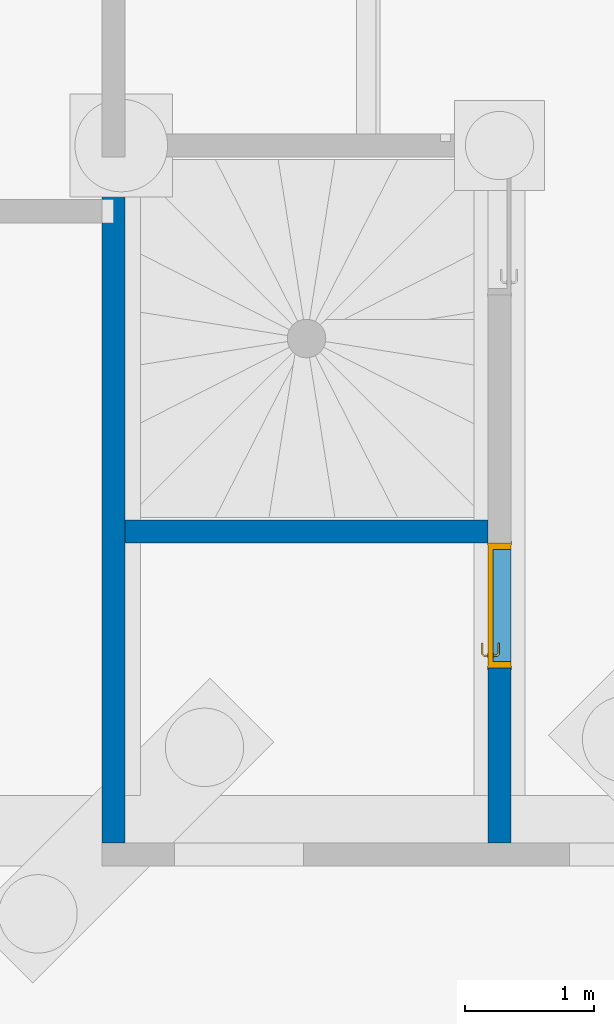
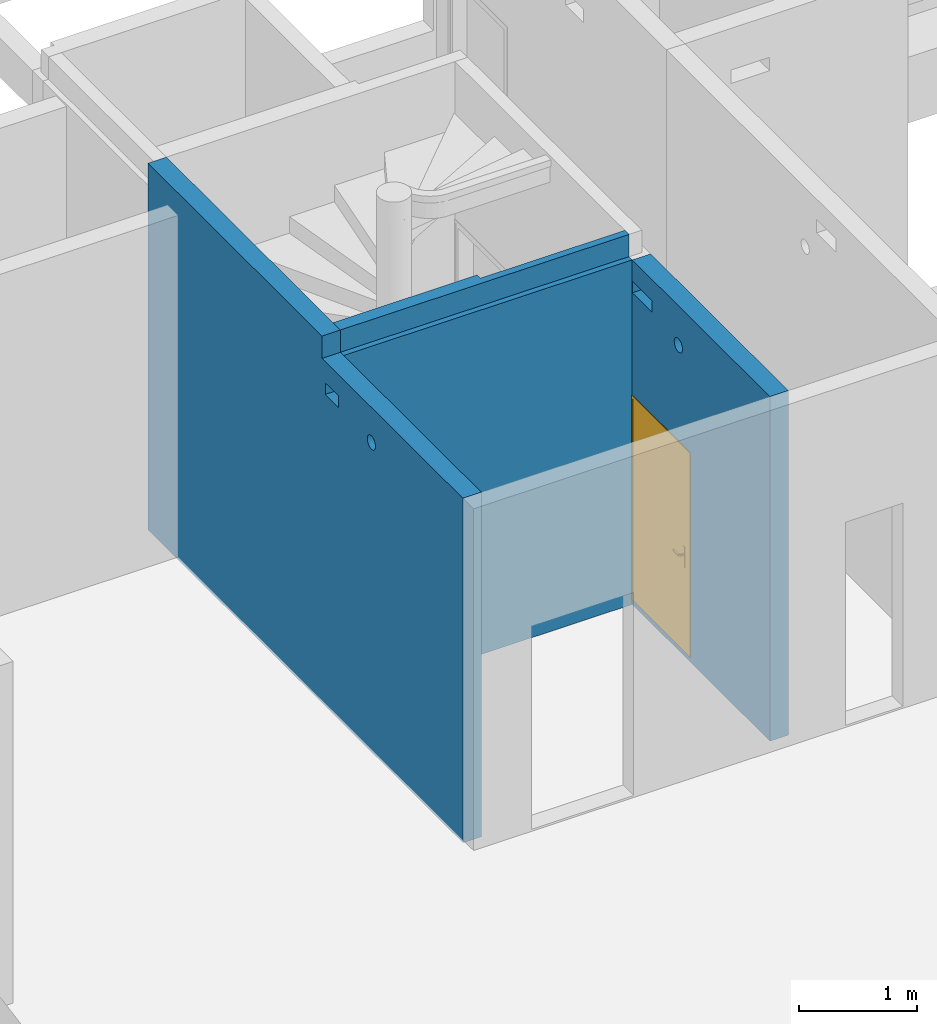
# One storey, part 14 of 29: 3 walls, 1 door, 1 opening.
"""IFC2X3 building model written with IfcOpenShell, lengths in centimetres."""

from ifc_helpers import new_model, entity, si_unit, converted_unit, derived_unit, direction, frame, frame_2d, origin, place, context, subcontext, project, spatial, rectangle, extrude, faceted_brep, source, transform, mapped, material, material_list, layer, layer_set, type_object, type_shapes, element, fill, save


model = new_model("IFC2X3")

# Units and contexts
model_context = context("Model", 3, precision=0.001, world=origin(), true_north=direction((6.12303176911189e-17, 1.0)))
body_context = subcontext(model_context, "Body", "Model", "MODEL_VIEW")
ifc_project = project(units=[si_unit("LENGTHUNIT", "METRE", prefix="CENTI"), si_unit("AREAUNIT", "SQUARE_METRE"), si_unit("VOLUMEUNIT", "CUBIC_METRE"), converted_unit("PLANEANGLEUNIT", "DEGREE", entity("IfcRatioMeasure", 0.0174532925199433), si_unit("PLANEANGLEUNIT", "RADIAN"), dimensions=[0, 0, 0, 0, 0, 0, 0]), si_unit("MASSUNIT", "GRAM", prefix="KILO"), derived_unit("MASSDENSITYUNIT", [(si_unit("MASSUNIT", "GRAM", prefix="KILO"), 1), (si_unit("LENGTHUNIT", "METRE"), -3)]), si_unit("TIMEUNIT", "SECOND"), si_unit("FREQUENCYUNIT", "HERTZ"), si_unit("THERMODYNAMICTEMPERATUREUNIT", "DEGREE_CELSIUS"), derived_unit("THERMALTRANSMITTANCEUNIT", [(si_unit("MASSUNIT", "GRAM", prefix="KILO"), 1), (si_unit("THERMODYNAMICTEMPERATUREUNIT", "KELVIN"), -1), (si_unit("TIMEUNIT", "SECOND"), -3)]), derived_unit("VOLUMETRICFLOWRATEUNIT", [(si_unit("LENGTHUNIT", "METRE"), 3), (si_unit("TIMEUNIT", "SECOND"), -1)]), si_unit("ELECTRICCURRENTUNIT", "AMPERE"), si_unit("ELECTRICVOLTAGEUNIT", "VOLT"), si_unit("POWERUNIT", "WATT"), si_unit("FORCEUNIT", "NEWTON"), si_unit("ILLUMINANCEUNIT", "LUX"), si_unit("LUMINOUSFLUXUNIT", "LUMEN"), si_unit("LUMINOUSINTENSITYUNIT", "CANDELA"), derived_unit("USERDEFINED", [(si_unit("MASSUNIT", "GRAM", prefix="KILO"), -1), (si_unit("LENGTHUNIT", "METRE"), -2), (si_unit("TIMEUNIT", "SECOND"), 3), (si_unit("LUMINOUSFLUXUNIT", "LUMEN"), 1)]), derived_unit("LINEARVELOCITYUNIT", [(si_unit("LENGTHUNIT", "METRE"), 1), (si_unit("TIMEUNIT", "SECOND"), -1)]), si_unit("PRESSUREUNIT", "PASCAL"), derived_unit("USERDEFINED", [(si_unit("LENGTHUNIT", "METRE"), -2), (si_unit("MASSUNIT", "GRAM", prefix="KILO"), 1), (si_unit("TIMEUNIT", "SECOND"), -2)])], contexts=[model_context])

# Site, building, storey
site_placement = place(None, origin())
site = spatial("IfcSite", under=ifc_project, at=site_placement, Name="Default", CompositionType="ELEMENT")
building_placement = place(site_placement, origin())
building = spatial("IfcBuilding", under=site, at=building_placement, Name="CAGE 03", CompositionType="ELEMENT")
storey_placement = place(building_placement, frame((0.0, 0.0, -34.0)))
storey = spatial("IfcBuildingStorey", under=building, at=storey_placement, Name="+3.66", CompositionType="ELEMENT", Elevation=-34.0000000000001)

# Wall
ifc_material_1 = material(Name="Béton, C25/30")
ifc_layer = layer(ifc_material_1, 18.0)
ifc_layer_set = layer_set([ifc_layer], Name="Mur de base:Voile BA 18")
wall_type = type_object("IfcWallType", Name="Mur de base:Voile BA 18", PredefinedType="STANDARD", material=ifc_layer_set)
wall_1_placement = place(storey_placement, frame((3672.36582014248, 4641.66066607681, -5.0)))
element("IfcWall", 1, at=wall_1_placement, inside=storey, type_object=wall_type, Name="Mur de base:Voile BA 18", ObjectType="Mur de base:Voile BA 18", context=body_context, shape_type="Brep", body=[
    faceted_brep([(0.0, -9.0, 0.0), (282.0, -9.0, 0.0), (282.0, -9.0, 356.0), (0.0, -9.0, 356.0), (0.0, -9.0, 334.076580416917), (0.0, -9.0, 322.076580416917), (282.0, 9.0, 0.0), (0.0, 9.0, 0.0), (0.0, 9.0, 379.0), (141.0, 9.0, 379.0), (141.0, 9.0, 359.0), (282.0, 9.0, 359.0), (0.0, -3.50000000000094, 379.0), (282.0, -3.50000000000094, 379.0), (282.0, 3.50000000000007, 379.0), (141.0, 3.50000000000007, 379.0), (282.0, 3.50000000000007, 359.0), (282.0, -3.50000000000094, 356.0), (0.0, -3.50000000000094, 356.0), (141.0, 3.50000000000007, 359.0)], [[[0, 1, 2, 3, 4, 5]], [[6, 7, 8, 9, 10, 11]], [[1, 0, 7, 6]], [[12, 13, 14, 15, 9, 8]], [[1, 6, 11, 16, 14, 13, 17, 2]], [[8, 7, 0, 5, 4, 3, 18, 12]], [[3, 2, 17, 18]], [[13, 12, 18, 17]], [[19, 16, 11, 10]], [[15, 19, 10, 9]], [[19, 15, 14, 16]]]),
])

# Wall, opening, door
wall_2_placement = place(storey_placement, frame((3963.36582014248, 4632.66066607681, -5.0), z_axis=(0.0, 0.0, 1.0), x_axis=(0.0, -1.0, 0.0)))
wall_2 = element("IfcWall", 2, at=wall_2_placement, inside=storey, type_object=wall_type, Name="Mur de base:Voile BA 18", ObjectType="Mur de base:Voile BA 18", context=body_context, shape_type="Brep", body=[
    faceted_brep([(0.0, 9.0, 215.0), (0.0, -9.0, 215.0), (0.0, -9.0, 356.0), (0.0, 9.0, 356.0), (0.0, 9.0, 0.0), (0.0, -9.0, 0.0), (0.0, -9.0, 5.0), (0.0, 9.0, 5.0), (97.0, -9.0, 215.0), (74.5698580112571, -9.0, 309.16345256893), (76.2581246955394, -9.0, 308.464149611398), (78.0698580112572, -9.0, 308.225630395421), (79.8815913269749, -9.0, 308.464149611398), (81.5698580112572, -9.0, 309.16345256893), (83.019605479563, -9.0, 310.275882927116), (84.1320358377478, -9.0, 311.725630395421), (84.8313387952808, -9.0, 313.413897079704), (233.0, -9.0, 356.0), (233.0, -9.0, 0.0), (97.0, -9.0, 5.0), (85.0698580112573, -9.0, 315.225630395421), (84.8313387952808, -9.0, 317.037363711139), (84.1320358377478, -9.0, 318.725630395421), (83.019605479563, -9.0, 320.175377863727), (81.5698580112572, -9.0, 321.287808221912), (79.8815913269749, -9.0, 321.987111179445), (0.119290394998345, -9.0, 322.076580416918), (0.119290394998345, -9.0, 334.076580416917), (33.1192903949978, -9.0, 334.076580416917), (78.0698580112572, -9.0, 322.225630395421), (76.2581246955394, -9.0, 321.987111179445), (73.1201105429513, -9.0, 310.275882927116), (33.1192903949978, -9.0, 322.076580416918), (72.0076801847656, -9.0, 311.725630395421), (71.3083772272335, -9.0, 313.413897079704), (71.069858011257, -9.0, 315.225630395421), (71.3083772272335, -9.0, 317.037363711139), (72.0076801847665, -9.0, 318.725630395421), (73.1201105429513, -9.0, 320.175377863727), (74.5698580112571, -9.0, 321.287808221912), (233.0, 9.0, 0.0), (97.0, 9.0, 5.0), (97.0, 9.0, 215.0), (233.0, 9.0, 356.0), (84.8313387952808, 9.0, 313.413897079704), (84.1320358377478, 9.0, 311.725630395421), (83.019605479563, 9.0, 310.275882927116), (81.5698580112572, 9.0, 309.16345256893), (79.8815913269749, 9.0, 308.464149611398), (78.0698580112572, 9.0, 308.225630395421), (76.2581246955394, 9.0, 308.464149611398), (74.5698580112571, 9.0, 309.16345256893), (73.1201105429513, 9.0, 310.275882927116), (33.1192903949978, 9.0, 322.076580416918), (0.119290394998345, 9.0, 322.076580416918), (79.8815913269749, 9.0, 321.987111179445), (78.0698580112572, 9.0, 322.225630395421), (0.119290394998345, 9.0, 334.076580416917), (33.1192903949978, 9.0, 334.076580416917), (72.0076801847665, 9.0, 318.725630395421), (73.1201105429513, 9.0, 320.175377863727), (74.5698580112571, 9.0, 321.287808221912), (76.2581246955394, 9.0, 321.987111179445), (71.3083772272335, 9.0, 317.037363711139), (71.069858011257, 9.0, 315.225630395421), (71.3083772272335, 9.0, 313.413897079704), (72.0076801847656, 9.0, 311.725630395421), (85.0698580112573, 9.0, 315.225630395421), (84.8313387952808, 9.0, 317.037363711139), (84.1320358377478, 9.0, 318.725630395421), (83.019605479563, 9.0, 320.175377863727), (81.5698580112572, 9.0, 321.287808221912)], [[[0, 1, 2, 3]], [[4, 5, 6, 7]], [[8, 9, 1]], [[10, 9, 8]], [[11, 10, 8]], [[12, 11, 8]], [[12, 8, 13]], [[14, 13, 8]], [[14, 8, 15]], [[16, 15, 8]], [[16, 8, 17]], [[8, 18, 17]], [[19, 18, 8]], [[18, 19, 5]], [[6, 5, 19]], [[20, 16, 17]], [[17, 21, 20]], [[22, 21, 17]], [[22, 17, 23]], [[24, 23, 17]], [[24, 17, 25]], [[25, 17, 2]], [[26, 2, 1]], [[27, 2, 26]], [[2, 27, 28]], [[2, 28, 29]], [[25, 2, 29]], [[29, 28, 30]], [[9, 31, 1]], [[1, 31, 32]], [[32, 31, 33]], [[32, 33, 34]], [[35, 32, 34]], [[32, 35, 36]], [[36, 37, 32]], [[38, 28, 37]], [[32, 37, 28]], [[39, 30, 28]], [[28, 38, 39]], [[32, 26, 1]], [[40, 41, 42]], [[41, 40, 4]], [[40, 42, 43]], [[41, 4, 7]], [[44, 43, 42]], [[44, 42, 45]], [[46, 45, 42]], [[47, 46, 42]], [[48, 47, 42]], [[49, 48, 42]], [[49, 42, 50]], [[50, 42, 51]], [[51, 42, 0]], [[52, 51, 0]], [[53, 52, 0]], [[0, 54, 53]], [[54, 0, 3]], [[43, 55, 3]], [[3, 55, 56]], [[3, 57, 54]], [[58, 57, 3]], [[3, 56, 58]], [[53, 58, 59]], [[60, 59, 58]], [[60, 58, 61]], [[62, 61, 58]], [[58, 56, 62]], [[53, 59, 63]], [[53, 63, 64]], [[53, 64, 65]], [[53, 65, 66]], [[66, 52, 53]], [[44, 67, 43]], [[68, 43, 67]], [[43, 68, 69]], [[69, 70, 43]], [[70, 71, 43]], [[71, 55, 43]], [[18, 5, 4, 40]], [[2, 17, 43, 3]], [[1, 0, 42, 8]], [[8, 42, 41, 19]], [[19, 41, 7, 6]], [[17, 18, 40, 43]], [[15, 16, 44, 45]], [[15, 45, 46, 14]], [[12, 13, 47, 48]], [[46, 47, 13, 14]], [[11, 12, 48, 49]], [[20, 67, 44, 16]], [[9, 10, 50, 51]], [[9, 51, 52, 31]], [[34, 33, 66, 65]], [[52, 66, 33, 31]], [[35, 34, 65, 64]], [[49, 50, 10, 11]], [[63, 36, 35, 64]], [[30, 39, 61, 62]], [[38, 60, 61, 39]], [[30, 62, 56, 29]], [[37, 36, 63, 59]], [[59, 60, 38, 37]], [[24, 25, 55, 71]], [[24, 71, 70, 23]], [[21, 22, 69, 68]], [[70, 69, 22, 23]], [[20, 21, 68, 67]], [[56, 55, 25, 29]], [[57, 58, 28, 27]], [[57, 27, 26, 54]], [[53, 54, 26, 32]], [[53, 32, 28, 58]]]),
])
opening_placement = place(wall_2_placement, frame((97.0, 9.0, 5.0)))
opening = element("IfcOpeningElement", 3, at=opening_placement, cuts=wall_2, Name="Int. Simple:HB93:1", ObjectType="Opening", context=body_context, shape_type="SweptSolid", body=[
    extrude(rectangle(XDim=210.000000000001, YDim=96.9999999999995, at=frame_2d((105.000000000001, 48.4999999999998), x_axis=(1.0, 0.0))), frame((0.0, 0.0, 0.0), z_axis=(0.0, -1.0, 0.0), x_axis=(0.0, 0.0, 1.0)), (0.0, 0.0, 1.0), 18.0),
])
ifc_material_2 = material(Name="Finition Peinture - Blanc satiné")
ifc_material_3 = material(Name="Bois - Panneau de porte")
ifc_material_4 = material(Name="Bois - Cadre de porte")
ifc_material_list_1 = material_list([ifc_material_2, ifc_material_3, ifc_material_4])
ifc_material_list_2 = material_list([ifc_material_2, ifc_material_3, ifc_material_4])
door_style = type_object("IfcDoorStyle", Name="HB93", ConstructionType="NOTDEFINED", OperationType="SINGLE_SWING_RIGHT", ParameterTakesPrecedence=False, Sizeable=False, material=ifc_material_list_2)
shared_shape = source(origin(), body_context, "Body", "Brep", [
    faceted_brep([(96.5000000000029, -0.500000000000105, 87.0), (96.5000000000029, -0.500000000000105, 108.0), (95.535276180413, -0.500000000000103, 108.399601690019), (94.5000000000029, -0.500000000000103, 108.535898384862), (93.4647238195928, -0.500000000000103, 108.399601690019), (92.5000000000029, -0.500000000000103, 108.0), (92.5000000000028, -0.500000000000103, 87.0), (93.4647238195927, -0.500000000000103, 86.6003983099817), (94.5000000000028, -0.500000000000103, 86.464101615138), (95.5352761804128, -0.500000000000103, 86.6003983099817), (96.5000000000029, 0.0, 108.0), (96.5000000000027, 0.0, 87.0), (95.5352761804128, 0.0, 86.6003983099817), (94.5000000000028, 0.0, 86.464101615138), (93.4647238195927, 0.0, 86.6003983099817), (92.5000000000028, 0.0, 87.0), (92.5000000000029, 0.0, 108.0), (93.4647238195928, 0.0, 108.399601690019), (94.5000000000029, 0.0, 108.535898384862), (95.535276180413, 0.0, 108.399601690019)], [[[0, 1, 2, 3, 4, 5, 6, 7, 8, 9]], [[10, 11, 12, 13, 14, 15, 16, 17, 18, 19]], [[9, 12, 11, 0]], [[8, 13, 12, 9]], [[7, 14, 13, 8]], [[7, 6, 15, 14]], [[15, 6, 5, 16]], [[4, 17, 16, 5]], [[3, 18, 17, 4]], [[2, 19, 18, 3]], [[2, 1, 10, 19]], [[11, 10, 1, 0]]]),
    faceted_brep([(96.5000000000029, 4.0, 87.0), (96.5000000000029, 4.0, 108.0), (95.535276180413, 4.0, 108.399601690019), (94.5000000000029, 4.0, 108.535898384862), (93.4647238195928, 4.0, 108.399601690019), (92.500000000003, 4.0, 108.0), (92.5000000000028, 4.0, 87.0), (93.4647238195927, 4.0, 86.6003983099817), (94.5000000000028, 4.0, 86.464101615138), (95.5352761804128, 4.0, 86.6003983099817), (94.5000000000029, 4.49999999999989, 108.535898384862), (95.535276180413, 4.49999999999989, 108.399601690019), (96.5000000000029, 4.49999999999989, 108.0), (96.5000000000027, 4.49999999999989, 87.0), (95.5352761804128, 4.49999999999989, 86.6003983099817), (94.5000000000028, 4.49999999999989, 86.464101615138), (93.4647238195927, 4.49999999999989, 86.6003983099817), (92.5000000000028, 4.4999999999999, 87.0), (92.5000000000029, 4.4999999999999, 108.0), (93.4647238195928, 4.49999999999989, 108.399601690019)], [[[0, 1, 2, 3, 4, 5, 6, 7, 8, 9]], [[10, 11, 12, 13, 14, 15, 16, 17, 18, 19]], [[4, 19, 18, 5]], [[3, 10, 19, 4]], [[2, 11, 10, 3]], [[2, 1, 12, 11]], [[13, 12, 1, 0]], [[9, 14, 13, 0]], [[8, 15, 14, 9]], [[7, 16, 15, 8]], [[7, 6, 17, 16]], [[17, 6, 5, 18]]]),
    faceted_brep([(94.2974701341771, -0.500000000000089, 100.778044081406), (94.7025298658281, -0.500000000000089, 100.778044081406), (95.100000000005, -0.500000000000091, 100.699999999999), (95.100000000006, -0.500000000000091, 99.2999999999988), (94.7025298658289, -0.500000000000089, 99.221955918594), (94.297470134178, -0.500000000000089, 99.2219559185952), (93.9000000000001, -0.500000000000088, 99.3000000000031), (93.9000000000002, -0.500000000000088, 100.7), (94.7025298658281, -3.10045754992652, 100.778044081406), (95.1000000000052, -3.26509507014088, 100.7), (94.2974701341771, -2.93267631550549, 100.778044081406), (92.9298602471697, -4.30028620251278, 100.778044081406), (93.0976414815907, -4.70534593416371, 100.778044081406), (93.9000000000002, -2.76803879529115, 100.7), (93.9000000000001, -2.76803879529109, 99.3000000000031), (94.297470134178, -2.93267631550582, 99.2219559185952), (94.7025298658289, -3.10045754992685, 99.221955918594), (93.0976414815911, -4.70534593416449, 99.221955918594), (92.9298602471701, -4.30028620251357, 99.2219559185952), (95.100000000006, -3.26509507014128, 99.2999999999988), (93.2622790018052, -5.1028160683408, 100.7), (92.7652227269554, -3.90281606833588, 100.7), (92.7652227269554, -3.90281606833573, 99.3000000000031), (93.2622790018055, -5.10281606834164, 99.2999999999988), (84.4981359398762, -5.10281606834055, 100.7), (84.4981359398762, -4.70534593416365, 100.778044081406), (84.4981359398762, -4.30028620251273, 100.778044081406), (84.4981359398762, -3.90281606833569, 100.699999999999), (84.4981359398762, -3.90281606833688, 99.3000000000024), (84.4981359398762, -4.30028620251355, 99.2219559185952), (84.4981359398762, -4.70534593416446, 99.221955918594), (84.4981359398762, -5.10281606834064, 99.2999999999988), (88.7139980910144, -4.5028160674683, 100.78786867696), (89.2692302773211, -5.1028160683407, 100.7), (88.6316793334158, -3.90281606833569, 100.7), (88.631679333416, -3.90281606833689, 99.3000000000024), (88.7139981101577, -4.50281607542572, 99.2121313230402), (89.2692310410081, -5.10281606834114, 99.2999999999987)], [[[0, 1, 2, 3, 4, 5, 6, 7]], [[2, 1, 8, 9]], [[1, 0, 10, 11, 12, 8]], [[0, 7, 13, 10]], [[14, 13, 7, 6]], [[5, 15, 14, 6]], [[5, 4, 16, 17, 18, 15]], [[3, 19, 16, 4]], [[9, 19, 3, 2]], [[9, 8, 12, 20]], [[10, 13, 21, 11]], [[22, 21, 13, 14]], [[14, 15, 18, 22]], [[16, 19, 23, 17]], [[20, 23, 19, 9]], [[24, 25, 26, 27, 28, 29, 30, 31]], [[32, 25, 33]], [[33, 25, 24]], [[33, 20, 12]], [[11, 34, 32]], [[34, 11, 21]], [[27, 26, 34]], [[32, 26, 25]], [[32, 34, 26]], [[32, 33, 12]], [[11, 32, 12]], [[21, 22, 35, 28, 27, 34]], [[36, 29, 35]], [[30, 36, 37]], [[18, 35, 22]], [[29, 28, 35]], [[30, 37, 31]], [[37, 17, 23]], [[36, 17, 37]], [[36, 18, 17]], [[36, 35, 18]], [[29, 36, 30]], [[23, 20, 33, 24, 31, 37]]]),
    faceted_brep([(94.2974701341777, 4.49999999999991, 99.2219559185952), (94.7025298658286, 4.49999999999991, 99.221955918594), (95.1000000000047, 4.49999999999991, 99.2999999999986), (95.1000000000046, 4.49999999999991, 100.7), (94.7025298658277, 4.49999999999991, 100.778044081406), (94.2974701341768, 4.49999999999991, 100.778044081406), (93.8999999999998, 4.49999999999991, 100.7), (93.900000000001, 4.49999999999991, 99.3000000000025), (93.8999999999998, 6.7485204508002, 100.7), (93.8999999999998, 6.74852045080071, 99.3000000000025), (94.2974701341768, 6.91315797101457, 100.778044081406), (94.7025298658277, 7.0809392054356, 100.778044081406), (93.0838906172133, 8.69957845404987, 100.778044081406), (92.9161093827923, 8.29451872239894, 100.778044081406), (95.1000000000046, 7.24557672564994, 100.7), (95.1000000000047, 7.24557672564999, 99.2999999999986), (94.7025298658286, 7.08093920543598, 99.221955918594), (94.2974701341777, 6.91315797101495, 99.2219559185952), (92.9161093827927, 8.29451872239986, 99.2219559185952), (93.0838906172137, 8.69957845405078, 99.221955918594), (92.751471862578, 7.89704858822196, 100.7), (92.7514718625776, 7.89704858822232, 99.3000000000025), (93.2485281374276, 9.09704858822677, 100.7), (93.2485281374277, 9.09704858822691, 99.2999999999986), (84.4954216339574, 8.29451872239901, 100.778044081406), (84.4954216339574, 8.69957845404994, 100.778044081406), (84.4954216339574, 9.09704858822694, 100.7), (84.4954216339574, 9.09704858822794, 99.2999999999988), (84.4954216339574, 8.6995784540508, 99.221955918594), (84.4954216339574, 8.29451872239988, 99.2219559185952), (84.4954216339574, 7.89704858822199, 99.3000000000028), (84.4954216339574, 7.89704858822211, 100.7), (88.6234467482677, 7.89704858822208, 100.7), (88.6234479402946, 7.89704858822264, 99.3000000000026), (88.7057655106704, 8.49704858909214, 100.78786867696), (89.255479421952, 9.09704858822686, 100.7), (89.2554795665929, 9.09704858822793, 99.2999999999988), (88.7057654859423, 8.49704858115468, 99.2121313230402)], [[[0, 1, 2, 3, 4, 5, 6, 7]], [[8, 9, 7, 6]], [[5, 10, 8, 6]], [[5, 4, 11, 12, 13, 10]], [[3, 14, 11, 4]], [[14, 3, 2, 15]], [[2, 1, 16, 15]], [[1, 0, 17, 18, 19, 16]], [[0, 7, 9, 17]], [[20, 21, 9, 8]], [[8, 10, 13, 20]], [[14, 22, 12, 11]], [[23, 22, 14, 15]], [[15, 16, 19, 23]], [[17, 9, 21, 18]], [[24, 25, 26, 27, 28, 29, 30, 31]], [[21, 20, 32, 31, 30, 33]], [[34, 24, 32]], [[25, 34, 35]], [[13, 32, 20]], [[24, 31, 32]], [[25, 35, 26]], [[35, 12, 22]], [[34, 12, 35]], [[34, 13, 12]], [[34, 32, 13]], [[24, 34, 25]], [[22, 23, 36, 27, 26, 35]], [[37, 28, 36]], [[36, 28, 27]], [[36, 23, 19]], [[18, 33, 37]], [[33, 18, 21]], [[30, 29, 33]], [[37, 29, 28]], [[37, 33, 29]], [[37, 36, 19]], [[18, 37, 19]]]),
    faceted_brep([(100.500000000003, 4.0, 206.5), (100.500000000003, 4.0, 0.0), (10.5000000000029, 4.0, 0.0), (10.5000000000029, 4.0, 206.5), (100.500000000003, 0.0, 206.5), (10.5000000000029, 0.0, 206.5), (10.5000000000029, 0.0, 0.0), (100.500000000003, 0.0, 0.0)], [[[0, 1, 2, 3]], [[4, 5, 6, 7]], [[3, 5, 4, 0]], [[2, 6, 5, 3]], [[1, 7, 6, 2]], [[0, 4, 7, 1]]]),
    faceted_brep([(104.0, 0.0, 0.0), (100.500000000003, 0.0, 0.0), (100.500000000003, 4.0, 0.0), (99.0, 4.0, 0.0), (99.0, 18.0, 0.0), (104.0, 18.0, 0.0), (104.0, 18.0, 210.0), (104.0, 0.0, 210.0), (99.0, 18.0, 205.0), (12.0, 18.0, 205.0), (12.0, 18.0, 0.0), (7.0, 18.0, 0.0), (7.0, 18.0, 210.0), (99.0, 4.0, 205.0), (100.500000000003, 4.0, 206.5), (10.5000000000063, 4.0, 206.5), (10.5000000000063, 4.0, 0.0), (12.0, 4.0, 0.0), (12.0, 4.0, 205.0), (100.500000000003, 0.0, 206.5), (7.0, 0.0, 210.0), (7.0, 0.0, 0.0), (10.5000000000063, 0.0, 0.0), (10.5000000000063, 0.0, 206.5)], [[[0, 1, 2, 3, 4, 5]], [[5, 6, 7, 0]], [[4, 8, 9, 10, 11, 12, 6, 5]], [[3, 13, 8, 4]], [[2, 14, 15, 16, 17, 18, 13, 3]], [[1, 19, 14, 2]], [[0, 7, 20, 21, 22, 23, 19, 1]], [[12, 11, 21, 20]], [[21, 11, 10, 17, 16, 22]], [[18, 17, 10, 9]], [[23, 22, 16, 15]], [[6, 12, 20, 7]], [[13, 18, 9, 8]], [[19, 23, 15, 14]]]),
    faceted_brep([(102.500000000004, 18.0, 0.0), (102.500000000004, 18.5000000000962, 0.0), (105.500000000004, 18.5000000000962, 0.0), (105.500000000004, 18.0, 0.0), (105.500000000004, 18.0, 211.500000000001), (5.50000000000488, 18.0, 211.500000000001), (5.50000000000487, 18.0, 0.0), (8.50000000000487, 18.0, 0.0), (8.50000000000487, 18.0, 208.500000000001), (102.500000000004, 18.0, 208.500000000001), (105.500000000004, 18.5000000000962, 211.500000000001), (102.500000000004, 18.5000000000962, 208.500000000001), (8.50000000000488, 18.5000000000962, 208.500000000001), (8.50000000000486, 18.5000000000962, 0.0), (5.50000000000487, 18.5000000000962, 0.0), (5.50000000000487, 18.5000000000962, 211.500000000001)], [[[0, 1, 2, 3]], [[3, 4, 5, 6, 7, 8, 9, 0]], [[2, 10, 4, 3]], [[1, 11, 12, 13, 14, 15, 10, 2]], [[0, 9, 11, 1]], [[7, 6, 14, 13]], [[8, 7, 13, 12]], [[15, 14, 6, 5]], [[10, 15, 5, 4]], [[9, 8, 12, 11]]]),
    faceted_brep([(105.500000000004, -0.5, 0.0), (105.500000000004, -0.5, 211.500000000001), (5.50000000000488, -0.5, 211.500000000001), (5.50000000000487, -0.5, 0.0), (8.50000000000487, -0.5, 0.0), (8.50000000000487, -0.5, 208.500000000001), (102.500000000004, -0.5, 208.500000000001), (102.500000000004, -0.5, 0.0), (105.500000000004, 0.0, 0.0), (105.500000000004, 0.0, 211.500000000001), (102.500000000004, 0.0, 0.0), (102.500000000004, 0.0, 208.500000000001), (8.50000000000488, 0.0, 208.500000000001), (8.50000000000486, 0.0, 0.0), (5.50000000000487, 0.0, 0.0), (5.50000000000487, 0.0, 211.500000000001)], [[[0, 1, 2, 3, 4, 5, 6, 7]], [[8, 9, 1, 0]], [[10, 11, 12, 13, 14, 15, 9, 8]], [[7, 6, 11, 10]], [[5, 4, 13, 12]], [[15, 14, 3, 2]], [[9, 15, 2, 1]], [[6, 5, 12, 11]], [[4, 3, 14, 13]], [[7, 10, 8, 0]]]),
])
type_shapes(door_style, [shared_shape])
door_placement = place(opening_placement, frame((-104.0, -18.0, 0.0)))
door = element("IfcDoor", 4, at=door_placement, inside=storey, type_object=door_style, material=ifc_material_list_1, Name="Int. Simple:HB93", ObjectType="HB93", OverallHeight=210.000000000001, OverallWidth=96.9999999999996, context=body_context, shape_type="MappedRepresentation", body=[
    mapped(shared_shape, transform((0.0, 0.0, 0.0), scale=1.0)),
])
fill(opening, door)

# Wall
wall_3_placement = place(storey_placement, frame((3663.36582014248, 4932.66066607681, -5.0), z_axis=(0.0, 0.0, 1.0), x_axis=(0.0, -1.0, 0.0)))
element("IfcWall", 5, at=wall_3_placement, inside=storey, type_object=wall_type, Name="Mur de base:Voile BA 18", ObjectType="Mur de base:Voile BA 18", context=body_context, shape_type="Brep", body=[
    faceted_brep([(0.0, -9.0, 356.0), (0.0, -9.0, 0.0), (33.0, -9.0, 0.0), (51.0, -9.0, 0.0), (145.500000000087, -9.0, 379.0), (0.0, -9.0, 379.0), (157.50000000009, -9.0, 379.0), (300.0, -9.0, 322.076580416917), (496.0, -9.0, 0.0), (322.0, -9.0, 322.076580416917), (376.25812469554, -9.0, 312.930362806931), (378.069858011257, -9.0, 312.691843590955), (379.881591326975, -9.0, 312.930362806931), (381.569858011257, -9.0, 313.629665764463), (383.019605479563, -9.0, 314.742096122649), (533.0, -9.0, 356.0), (533.0, -9.0, 0.0), (384.132035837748, -9.0, 316.191843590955), (384.831338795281, -9.0, 317.880110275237), (385.069858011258, -9.0, 319.691843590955), (384.831338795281, -9.0, 321.503576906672), (384.132035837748, -9.0, 323.191843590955), (383.019605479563, -9.0, 324.64159105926), (381.569858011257, -9.0, 325.754021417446), (379.881591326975, -9.0, 326.453324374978), (294.5, -9.0, 356.0), (294.5, -9.0, 379.0), (300.0, -9.0, 334.076580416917), (322.0, -9.0, 334.076580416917), (376.25812469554, -9.0, 326.453324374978), (378.069858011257, -9.0, 326.691843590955), (374.569858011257, -9.0, 313.629665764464), (373.120110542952, -9.0, 314.742096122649), (372.007680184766, -9.0, 316.191843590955), (371.308377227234, -9.0, 317.880110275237), (371.069858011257, -9.0, 319.691843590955), (371.308377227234, -9.0, 321.503576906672), (372.007680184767, -9.0, 323.191843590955), (373.120110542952, -9.0, 324.64159105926), (374.569858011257, -9.0, 325.754021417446), (496.0, 9.0, 0.0), (383.019605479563, 9.0, 314.742096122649), (533.0, 9.0, 356.0), (533.0, 9.0, 0.0), (381.569858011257, 9.0, 313.629665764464), (379.881591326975, 9.0, 312.930362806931), (378.069858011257, 9.0, 312.691843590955), (300.0, 9.0, 0.0), (376.25812469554, 9.0, 312.930362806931), (322.0, 9.0, 322.076580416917), (300.0, 9.0, 322.076580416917), (282.0, 9.0, 0.0), (0.0, 9.0, 0.0), (0.0, 9.0, 379.0), (282.0, 9.0, 379.0), (294.5, 9.0, 356.0), (294.5, 9.0, 379.0), (300.0, 9.0, 334.076580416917), (300.0, 9.0, 356.0), (379.881591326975, 9.0, 326.453324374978), (378.069858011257, 9.0, 326.691843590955), (376.25812469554, 9.0, 326.453324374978), (322.0, 9.0, 334.076580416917), (374.569858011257, 9.0, 325.754021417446), (371.308377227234, 9.0, 321.503576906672), (372.007680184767, 9.0, 323.191843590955), (373.120110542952, 9.0, 324.64159105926), (371.069858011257, 9.0, 319.691843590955), (371.308377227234, 9.0, 317.880110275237), (372.007680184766, 9.0, 316.191843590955), (373.120110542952, 9.0, 314.742096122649), (374.569858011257, 9.0, 313.629665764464), (384.132035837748, 9.0, 316.191843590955), (384.831338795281, 9.0, 317.880110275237), (385.069858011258, 9.0, 319.691843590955), (384.831338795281, 9.0, 321.503576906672), (384.132035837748, 9.0, 323.191843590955), (383.019605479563, 9.0, 324.64159105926), (381.569858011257, 9.0, 325.754021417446), (0.0, -3.50000000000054, 379.0)], [[[0, 1, 2]], [[2, 3, 0]], [[4, 0, 3]], [[0, 4, 5]], [[4, 3, 6]], [[7, 6, 3]], [[7, 3, 8]], [[7, 8, 9]], [[9, 8, 10]], [[11, 10, 8]], [[11, 8, 12]], [[13, 12, 8]], [[8, 14, 13]], [[14, 8, 15]], [[16, 15, 8]], [[15, 17, 14]], [[15, 18, 17]], [[19, 18, 15]], [[20, 19, 15]], [[15, 21, 20]], [[22, 21, 15]], [[22, 15, 23]], [[23, 15, 24]], [[25, 24, 15]], [[7, 25, 6]], [[25, 26, 6]], [[27, 25, 7]], [[28, 25, 27]], [[25, 28, 29]], [[29, 30, 25]], [[24, 25, 30]], [[31, 9, 10]], [[9, 31, 32]], [[32, 33, 9]], [[33, 34, 9]], [[34, 35, 9]], [[35, 36, 9]], [[9, 36, 28]], [[37, 28, 36]], [[37, 38, 28]], [[28, 38, 39]], [[39, 29, 28]], [[40, 41, 42]], [[42, 43, 40]], [[44, 41, 40]], [[45, 44, 40]], [[46, 45, 40]], [[46, 40, 47]], [[47, 48, 46]], [[48, 47, 49]], [[47, 50, 49]], [[50, 47, 51]], [[50, 51, 52]], [[52, 53, 50]], [[53, 54, 50]], [[55, 50, 54]], [[54, 56, 55]], [[57, 50, 55]], [[55, 58, 57]], [[59, 58, 42]], [[59, 60, 58]], [[60, 61, 58]], [[62, 58, 61]], [[57, 58, 62]], [[63, 62, 61]], [[62, 64, 49]], [[64, 62, 65]], [[62, 66, 65]], [[62, 63, 66]], [[64, 67, 49]], [[68, 49, 67]], [[49, 68, 69]], [[69, 70, 49]], [[49, 70, 71]], [[49, 71, 48]], [[42, 41, 72]], [[42, 72, 73]], [[74, 42, 73]], [[74, 75, 42]], [[76, 42, 75]], [[42, 76, 77]], [[42, 77, 78]], [[78, 59, 42]], [[3, 2, 1, 52, 51, 47, 40, 43, 16, 8]], [[4, 6, 26, 56, 54, 53, 79, 5]], [[16, 43, 42, 15]], [[52, 1, 0, 5, 79, 53]], [[58, 55, 25, 15, 42]], [[56, 26, 25, 55]], [[17, 18, 73, 72]], [[17, 72, 41, 14]], [[12, 13, 44, 45]], [[41, 44, 13, 14]], [[11, 12, 45, 46]], [[19, 74, 73, 18]], [[31, 10, 48, 71]], [[31, 71, 70, 32]], [[34, 33, 69, 68]], [[70, 69, 33, 32]], [[35, 34, 68, 67]], [[46, 48, 10, 11]], [[64, 36, 35, 67]], [[29, 39, 63, 61]], [[38, 66, 63, 39]], [[29, 61, 60, 30]], [[37, 36, 64, 65]], [[65, 66, 38, 37]], [[23, 24, 59, 78]], [[23, 78, 77, 22]], [[20, 21, 76, 75]], [[77, 76, 21, 22]], [[19, 20, 75, 74]], [[60, 59, 24, 30]], [[62, 28, 27, 57]], [[50, 57, 27, 7]], [[50, 7, 9, 49]], [[62, 49, 9, 28]]]),
])

save(model, "model.ifc")
